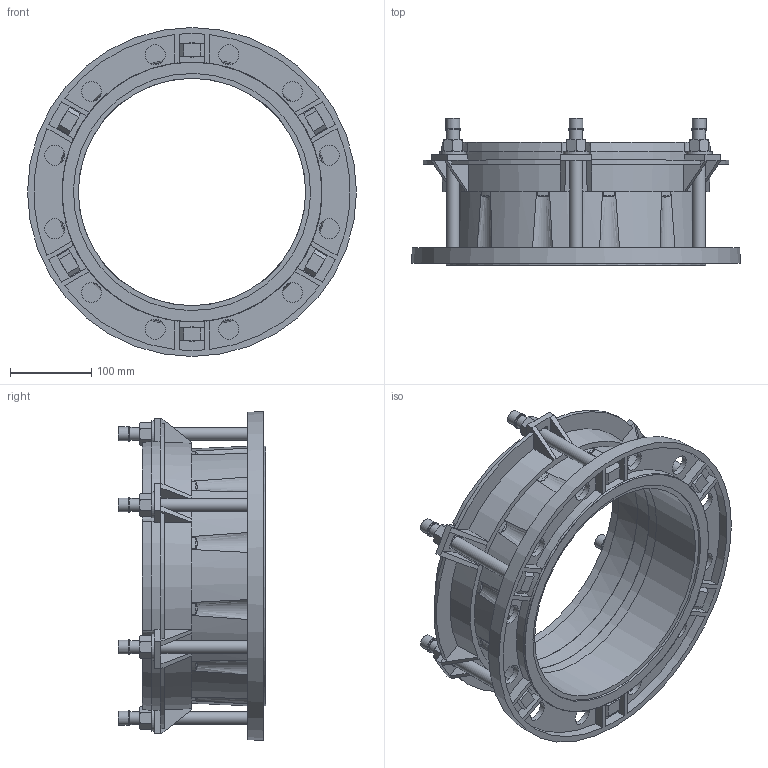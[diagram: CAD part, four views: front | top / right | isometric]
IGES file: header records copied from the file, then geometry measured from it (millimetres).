
Start section: SolidWorks IGES file using analytic representation for surfaces
Global section: file name: \\avksan2\techshare\PBM outline export from Enovia\O_623_10_DN250-280mm_X0XXXXX_REV01.igs; native system: SolidWorks 2019; preprocessor: SolidWorks 2019; author: pbm; date: 200417.111948; units: millimetre
Bounding box: 405 x 181.5 x 405 mm (x, y, z)
Surface area: 605653.9 mm2 (no closed solid volume)
Topology: 0 solids, 0 shells, 584 faces, 2927 edges, 2859 vertices
Faces by surface type: bspline 310, revolution 274
